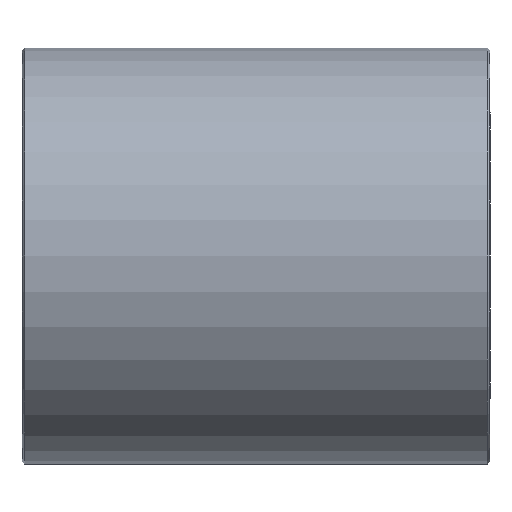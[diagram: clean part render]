
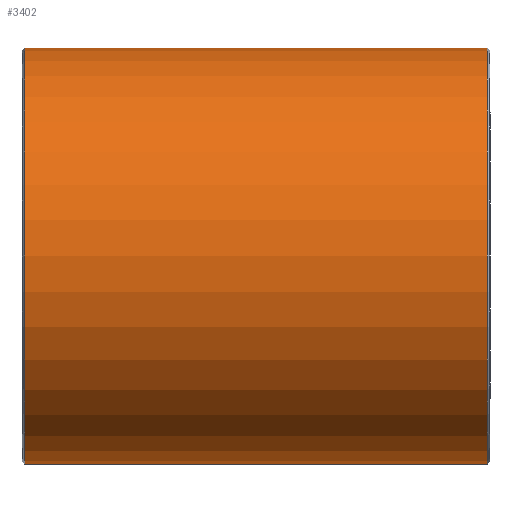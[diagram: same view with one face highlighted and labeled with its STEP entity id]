
A CAD part, front view. The second image highlights one B-rep face of the part: STEP entity #3402.
In plain terms, the highlighted cylindrical face has radius 40 mm (diameter 80 mm), a partial arc.
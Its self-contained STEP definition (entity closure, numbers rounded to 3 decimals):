
#1797=DIRECTION('',(1.,0.,0.));
#1798=VECTOR('',#1797,89.);
#1799=CARTESIAN_POINT('',(-44.5,0.,
-40.));
#1800=LINE('',#1799,#1798);
#1804=CARTESIAN_POINT('',(44.5,0.,0.));
#1805=DIRECTION('',(1.,0.,0.));
#1806=DIRECTION('',(0.,0.,1.));
#1807=AXIS2_PLACEMENT_3D('',#1804,#1805,#1806);
#1812=CARTESIAN_POINT('',(-44.5,0.,0.));
#1813=DIRECTION('',(-1.,0.,0.));
#1814=DIRECTION('',(0.,0.,-1.));
#1815=AXIS2_PLACEMENT_3D('',#1812,#1813,#1814);
#1820=DIRECTION('',(1.,0.,0.));
#1821=VECTOR('',#1820,89.);
#1822=CARTESIAN_POINT('',(-44.5,0.,
40.));
#1823=LINE('',#1822,#1821);
#2293=CARTESIAN_POINT('',(44.5,0.,40.));
#2294=CARTESIAN_POINT('',(44.5,0.,-40.));
#2295=VERTEX_POINT('',#2293);
#2296=VERTEX_POINT('',#2294);
#2301=CARTESIAN_POINT('',(-44.5,0.,-40.));
#2302=CARTESIAN_POINT('',(-44.5,0.,40.));
#2303=VERTEX_POINT('',#2301);
#2304=VERTEX_POINT('',#2302);
#3390=CARTESIAN_POINT('',(-45.,0.,0.));
#3391=DIRECTION('',(1.,0.,0.));
#3392=DIRECTION('',(0.,0.,-1.));
#3393=AXIS2_PLACEMENT_3D('',#3390,#3391,#3392);
#3394=CYLINDRICAL_SURFACE('',#3393,40.);
#3395=ORIENTED_EDGE('',*,*,#3355,.T.);
#3396=ORIENTED_EDGE('',*,*,#3385,.F.);
#3398=ORIENTED_EDGE('',*,*,#3397,.T.);
#3399=ORIENTED_EDGE('',*,*,#3381,.T.);
#3400=EDGE_LOOP('',(#3395,#3396,#3398,#3399));
#3401=FACE_OUTER_BOUND('',#3400,.F.);
#3402=ADVANCED_FACE('',(#3401),#3394,.T.);
#1808=CIRCLE('',#1807,40.);
#1816=CIRCLE('',#1815,40.);
#3355=EDGE_CURVE('',#2295,#2296,#1808,.T.);
#3381=EDGE_CURVE('',#2304,#2295,#1823,.T.);
#3385=EDGE_CURVE('',#2303,#2296,#1800,.T.);
#3397=EDGE_CURVE('',#2303,#2304,#1816,.T.);
